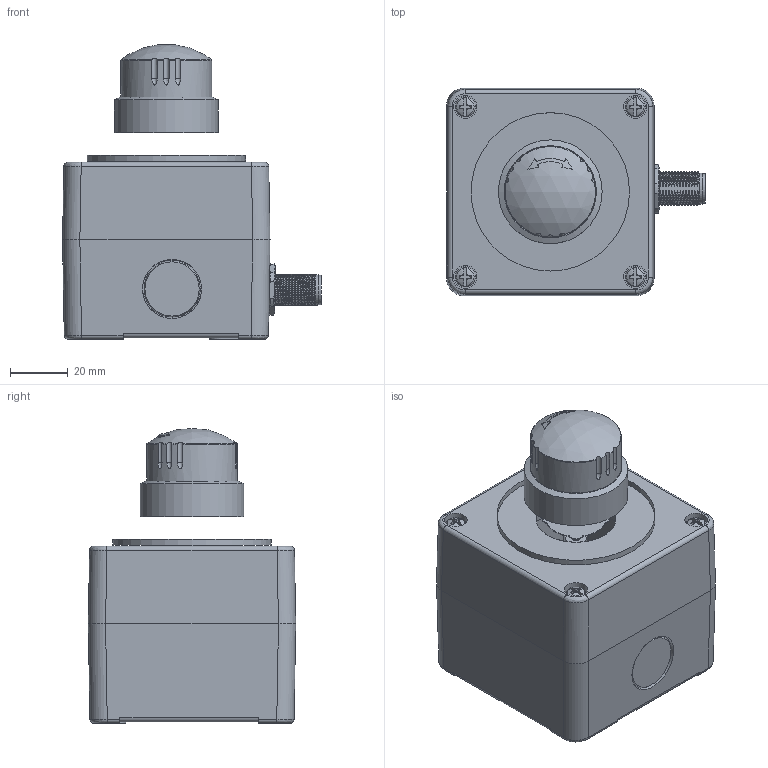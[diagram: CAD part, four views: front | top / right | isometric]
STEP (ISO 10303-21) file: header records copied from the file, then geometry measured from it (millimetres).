
FILE_DESCRIPTION(/* description */ (''),/* implementation_level */ '2;1');
FILE_NAME(/* name */ 'SIL_QRBUVOO_M12_vereinfacht.stp',/* time_stamp */ '2024-07-02T09:54:44+02:00',/* author */ ('Sz'),/* organization */ (''),/* preprocessor_version */ 'ST-DEVELOPER v19.2',/* originating_system */ 'Autodesk Inventor 2023',/* authorisation */ '');
FILE_SCHEMA (('AUTOMOTIVE_DESIGN { 1 0 10303 214 3 1 1 }'));
Products named in the file (1): Bauteil6763
Bounding box: 89.84 x 72 x 102.3 mm (x, y, z)
Volume: 347381.1 mm3; surface area: 42338 mm2
Topology: 1 solids, 2 shells, 528 faces, 1398 edges, 922 vertices
Faces by surface type: cylinder 172, plane 168, bspline 125, cone 35, torus 18, sphere 10
Full cylindrical faces by diameter (mm): 1 x5, 2.2 x5, 2.8 x4, 3.2 x20, 3.5 x4, 5 x8, 7 x4, 7.6 x4, 8 x4, 10.3 x1, 10.7 x1, 16.2 x1, 20.5 x2, 27.65 x1, 31.5 x1, 36 x1, 55 x1
Entity records: 45912 total; most frequent: CARTESIAN_POINT 33173, ORIENTED_EDGE 2796, DIRECTION 2125, EDGE_CURVE 1398, VERTEX_POINT 922, AXIS2_PLACEMENT_3D 845, EDGE_LOOP 584, STYLED_ITEM 529
